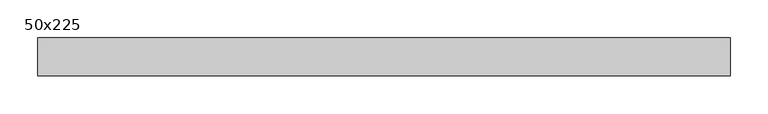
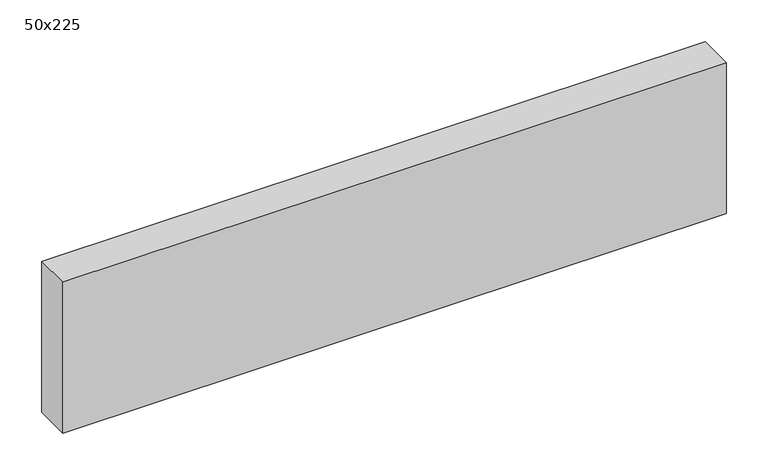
"""IFC4 building model written with IfcOpenShell, lengths in millimetres: beam geometry, Graded Timber : 50x225."""

from ifc_helpers import new_model, si_unit, frame, origin, place, context, project, spatial, polyline, outline, extrude, source, transform, mapped, element, save


def beam_50x225_5c907d6b(model_context):
    return source(origin(), model_context, "Body", "SweptSolid", [
        extrude(outline(polyline([(447.5, 25.0), (447.5, -25.0), (-465.4379571, -25.0), (-465.4379571, 25.0), (447.5, 25.0)])), frame((0.0, 0.0, -110.0), z_axis=(0.0, 0.0, 1.0), x_axis=(1.0, 0.0, 0.0)), (0.0, 0.0, 1.0), 220.0),
    ])


if __name__ == "__main__":
    model = new_model("IFC4")
    model_context = context("Model", 3, world=origin())
    ifc_project = project(units=[si_unit("LENGTHUNIT", "METRE", prefix="MILLI")], contexts=[model_context])
    site = spatial("IfcSite", under=ifc_project)
    building = spatial("IfcBuilding", under=site)
    placement = place(None, origin())
    beam_50x225_shape = beam_50x225_5c907d6b(model_context)
    element("IfcBeam", 1, ObjectType="Graded Timber : 50x225", at=placement, inside=building, context=model_context, shape_type="MappedRepresentation", body=[
        mapped(beam_50x225_shape, transform((0.0, 0.0, 0.0), x_axis=(1.0, 0.0, 0.0), y_axis=(0.0, 1.0, 0.0), z_axis=(0.0, 0.0, 1.0))),
    ])
    save(model, "model.ifc")
